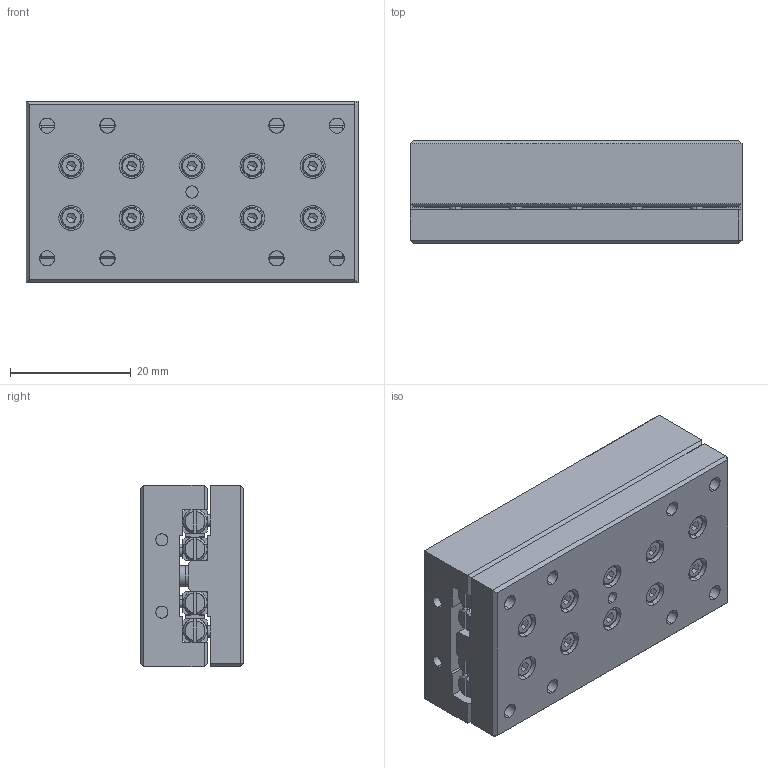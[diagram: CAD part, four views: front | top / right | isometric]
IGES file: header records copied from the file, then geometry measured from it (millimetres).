
Start section: SolidWorks IGES file using analytic representation for surfaces
Global section: file name: C:\Documents and Settings\IanO.IANOHOME\My Documents\Wix and Auto CAD Work\CAD Models\Parametric Models\Auto Models\L1020\L1020_IGES\L1020.030-055.igs; native system: SolidWorks 2009; preprocessor: SolidWorks 2009; author: IanO; date: 110922.161945; units: millimetre
Bounding box: 55 x 17 x 30 mm (x, y, z)
Surface area: 18802.2 mm2 (no closed solid volume)
Topology: 0 solids, 0 shells, 1448 faces, 17724 edges, 17674 vertices
Faces by surface type: bspline 902, revolution 546
